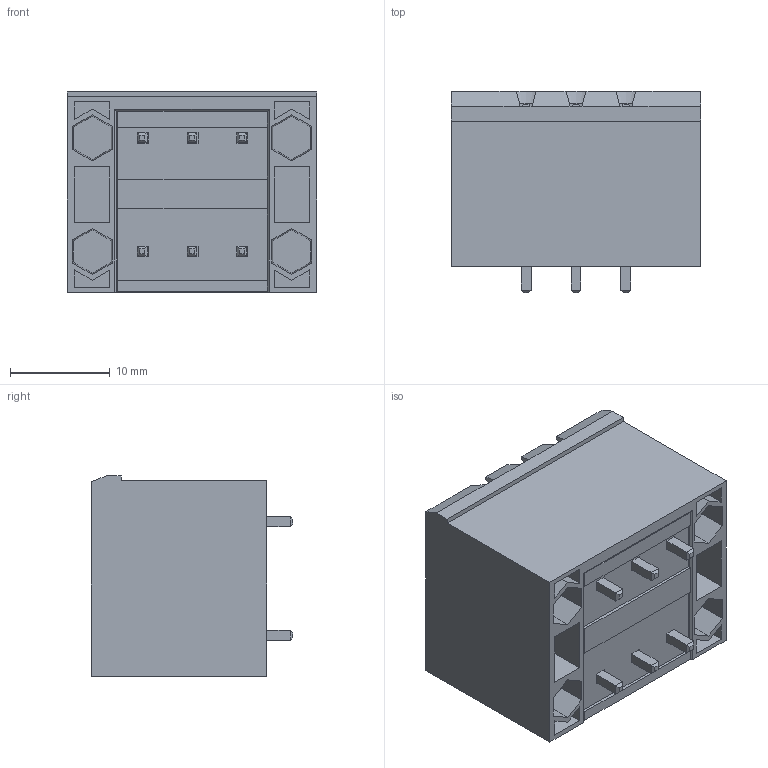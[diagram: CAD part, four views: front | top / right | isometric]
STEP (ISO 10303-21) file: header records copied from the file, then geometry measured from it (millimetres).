
FILE_DESCRIPTION((''),'2;1');
FILE_NAME('33','2019-04-12T',('zhenbing.lai'),(''),'CREO PARAMETRIC BY PTC INC, 2016260','CREO PARAMETRIC BY PTC INC, 2016260','');
FILE_SCHEMA(('CONFIG_CONTROL_DESIGN'));
Length unit declared in the file: millimetre
Products named in the file (1): 33
Bounding box: 25 x 20.2 x 20.1 mm (x, y, z)
Volume: 5734.5 mm3; surface area: 5270.7 mm2
Topology: 1 solids, 1 shells, 530 faces, 1449 edges, 942 vertices
Faces by surface type: plane 454, cylinder 64, cone 12
Entity records: 16922 total; most frequent: CARTESIAN_POINT 3580, ORIENTED_EDGE 2898, DIRECTION 2510, EDGE_CURVE 1449, VECTOR 1214, LINE 1214, VERTEX_POINT 942, AXIS2_PLACEMENT_3D 648
